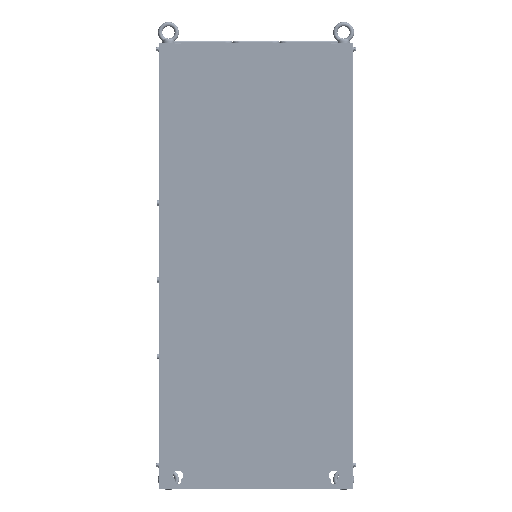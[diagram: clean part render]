
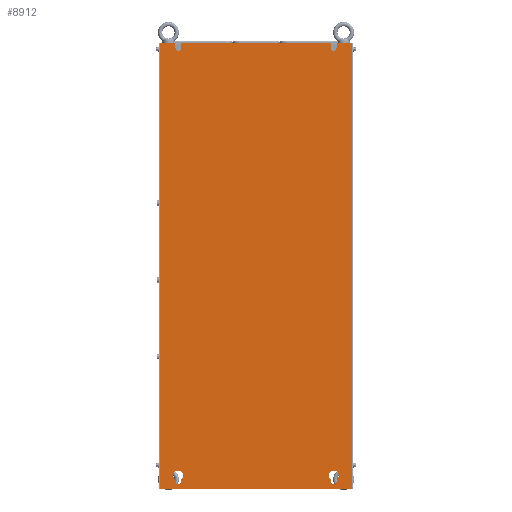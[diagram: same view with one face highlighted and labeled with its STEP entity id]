
A CAD part, front view. The second image highlights one B-rep face of the part: STEP entity #8912.
In plain terms, the highlighted planar face has unit normal (0, -1, 0).
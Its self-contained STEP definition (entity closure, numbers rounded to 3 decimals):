
#975=DIRECTION('',(0.,0.,-1.));
#976=VECTOR('',#975,915.);
#977=CARTESIAN_POINT('',(-198.,-30.,0.));
#978=LINE('',#977,#976);
#997=DIRECTION('',(1.,0.,0.));
#998=VECTOR('',#997,396.);
#999=CARTESIAN_POINT('',(-198.,-30.,-915.));
#1000=LINE('',#999,#998);
#1250=DIRECTION('',(0.,0.,1.));
#1251=VECTOR('',#1250,915.);
#1252=CARTESIAN_POINT('',(198.,-30.,-915.));
#1253=LINE('',#1252,#1251);
#1258=DIRECTION('',(1.,0.,0.));
#1259=VECTOR('',#1258,32.5);
#1260=CARTESIAN_POINT('',(-198.,-30.,0.));
#1261=LINE('',#1260,#1259);
#1262=DIRECTION('',(0.,0.,-1.));
#1263=VECTOR('',#1262,10.);
#1264=CARTESIAN_POINT('',(-165.5,-30.,0.));
#1265=LINE('',#1264,#1263);
#1266=CARTESIAN_POINT('',(-160.,-30.,-10.));
#1267=DIRECTION('',(0.,-1.,0.));
#1268=DIRECTION('',(-1.,0.,0.));
#1269=AXIS2_PLACEMENT_3D('',#1266,#1267,#1268);
#1271=DIRECTION('',(1.,0.,0.));
#1272=VECTOR('',#1271,309.);
#1273=CARTESIAN_POINT('',(-154.5,-30.,0.));
#1274=LINE('',#1273,#1272);
#1275=DIRECTION('',(0.,0.,-1.));
#1276=VECTOR('',#1275,10.);
#1277=CARTESIAN_POINT('',(154.5,-30.,0.));
#1278=LINE('',#1277,#1276);
#1279=CARTESIAN_POINT('',(160.,-30.,-10.));
#1280=DIRECTION('',(0.,-1.,0.));
#1281=DIRECTION('',(-1.,0.,0.));
#1282=AXIS2_PLACEMENT_3D('',#1279,#1280,#1281);
#1284=DIRECTION('',(1.,0.,0.));
#1285=VECTOR('',#1284,32.5);
#1286=CARTESIAN_POINT('',(165.5,-30.,0.));
#1287=LINE('',#1286,#1285);
#1288=CARTESIAN_POINT('',(-160.,-30.,-901.));
#1289=DIRECTION('',(0.,-1.,0.));
#1290=DIRECTION('',(-1.,0.,0.));
#1291=AXIS2_PLACEMENT_3D('',#1288,#1289,#1290);
#1293=DIRECTION('',(0.,0.,1.));
#1294=VECTOR('',#1293,4.648);
#1295=CARTESIAN_POINT('',(-154.5,-30.,-901.));
#1296=LINE('',#1295,#1294);
#1297=CARTESIAN_POINT('',(-160.,-30.,-888.));
#1298=DIRECTION('',(0.,-1.,0.));
#1299=DIRECTION('',(0.55,0.,-0.835));
#1300=AXIS2_PLACEMENT_3D('',#1297,#1298,#1299);
#1302=CARTESIAN_POINT('',(-160.,-30.,-888.));
#1303=DIRECTION('',(0.,-1.,0.));
#1304=DIRECTION('',(0.55,0.,0.835));
#1305=AXIS2_PLACEMENT_3D('',#1302,#1303,#1304);
#1307=DIRECTION('',(0.,0.,-1.));
#1308=VECTOR('',#1307,4.648);
#1309=CARTESIAN_POINT('',(-165.5,-30.,-896.352));
#1310=LINE('',#1309,#1308);
#1311=CARTESIAN_POINT('',(160.,-30.,-901.));
#1312=DIRECTION('',(0.,-1.,0.));
#1313=DIRECTION('',(-1.,0.,0.));
#1314=AXIS2_PLACEMENT_3D('',#1311,#1312,#1313);
#1316=DIRECTION('',(0.,0.,1.));
#1317=VECTOR('',#1316,4.648);
#1318=CARTESIAN_POINT('',(165.5,-30.,-901.));
#1319=LINE('',#1318,#1317);
#1320=CARTESIAN_POINT('',(160.,-30.,-888.));
#1321=DIRECTION('',(0.,-1.,0.));
#1322=DIRECTION('',(0.55,0.,-0.835));
#1323=AXIS2_PLACEMENT_3D('',#1320,#1321,#1322);
#1325=CARTESIAN_POINT('',(160.,-30.,-888.));
#1326=DIRECTION('',(0.,-1.,0.));
#1327=DIRECTION('',(0.55,0.,0.835));
#1328=AXIS2_PLACEMENT_3D('',#1325,#1326,#1327);
#1330=DIRECTION('',(0.,0.,-1.));
#1331=VECTOR('',#1330,4.648);
#1332=CARTESIAN_POINT('',(154.5,-30.,-896.352));
#1333=LINE('',#1332,#1331);
#1358=DIRECTION('',(0.,0.,-1.));
#1359=VECTOR('',#1358,10.);
#1360=CARTESIAN_POINT('',(-154.5,-30.,0.));
#1361=LINE('',#1360,#1359);
#1386=DIRECTION('',(0.,0.,-1.));
#1387=VECTOR('',#1386,10.);
#1388=CARTESIAN_POINT('',(165.5,-30.,0.));
#1389=LINE('',#1388,#1387);
#6214=CARTESIAN_POINT('',(-198.,-30.,-915.));
#6215=VERTEX_POINT('',#6214);
#6216=CARTESIAN_POINT('',(-198.,-30.,0.));
#6217=VERTEX_POINT('',#6216);
#6226=CARTESIAN_POINT('',(198.,-30.,-915.));
#6227=VERTEX_POINT('',#6226);
#6682=CARTESIAN_POINT('',(198.,-30.,0.));
#6683=VERTEX_POINT('',#6682);
#6686=CARTESIAN_POINT('',(-165.5,-30.,0.));
#6687=VERTEX_POINT('',#6686);
#6688=CARTESIAN_POINT('',(-165.5,-30.,-10.));
#6689=VERTEX_POINT('',#6688);
#6690=CARTESIAN_POINT('',(-154.5,-30.,-10.));
#6691=VERTEX_POINT('',#6690);
#6692=CARTESIAN_POINT('',(-154.5,-30.,0.));
#6693=VERTEX_POINT('',#6692);
#6694=CARTESIAN_POINT('',(154.5,-30.,0.));
#6695=VERTEX_POINT('',#6694);
#6696=CARTESIAN_POINT('',(154.5,-30.,-10.));
#6697=VERTEX_POINT('',#6696);
#6698=CARTESIAN_POINT('',(165.5,-30.,-10.));
#6699=VERTEX_POINT('',#6698);
#6700=CARTESIAN_POINT('',(165.5,-30.,0.));
#6701=VERTEX_POINT('',#6700);
#6702=CARTESIAN_POINT('',(-165.5,-30.,-901.));
#6703=CARTESIAN_POINT('',(-154.5,-30.,-901.));
#6704=VERTEX_POINT('',#6702);
#6705=VERTEX_POINT('',#6703);
#6706=CARTESIAN_POINT('',(-154.5,-30.,-896.352));
#6707=VERTEX_POINT('',#6706);
#6708=CARTESIAN_POINT('',(-154.5,-30.,-879.648));
#6709=VERTEX_POINT('',#6708);
#6710=CARTESIAN_POINT('',(-165.5,-30.,-896.352));
#6711=VERTEX_POINT('',#6710);
#6712=CARTESIAN_POINT('',(154.5,-30.,-901.));
#6713=CARTESIAN_POINT('',(165.5,-30.,-901.));
#6714=VERTEX_POINT('',#6712);
#6715=VERTEX_POINT('',#6713);
#6716=CARTESIAN_POINT('',(165.5,-30.,-896.352));
#6717=VERTEX_POINT('',#6716);
#6718=CARTESIAN_POINT('',(165.5,-30.,-879.648));
#6719=VERTEX_POINT('',#6718);
#6720=CARTESIAN_POINT('',(154.5,-30.,-896.352));
#6721=VERTEX_POINT('',#6720);
#8860=CARTESIAN_POINT('',(-200.,-30.,0.));
#8861=DIRECTION('',(0.,-1.,0.));
#8862=DIRECTION('',(0.,0.,-1.));
#8863=AXIS2_PLACEMENT_3D('',#8860,#8861,#8862);
#8864=PLANE('',#8863);
#8865=ORIENTED_EDGE('',*,*,#8844,.F.);
#8866=ORIENTED_EDGE('',*,*,#8186,.F.);
#8867=ORIENTED_EDGE('',*,*,#8141,.F.);
#8869=ORIENTED_EDGE('',*,*,#8868,.T.);
#8871=ORIENTED_EDGE('',*,*,#8870,.T.);
#8873=ORIENTED_EDGE('',*,*,#8872,.T.);
#8875=ORIENTED_EDGE('',*,*,#8874,.F.);
#8877=ORIENTED_EDGE('',*,*,#8876,.T.);
#8879=ORIENTED_EDGE('',*,*,#8878,.T.);
#8881=ORIENTED_EDGE('',*,*,#8880,.T.);
#8883=ORIENTED_EDGE('',*,*,#8882,.F.);
#8885=ORIENTED_EDGE('',*,*,#8884,.T.);
#8886=EDGE_LOOP('',(#8865,#8866,#8867,#8869,#8871,#8873,#8875,#8877,#8879,#8881,
#8883,#8885));
#8887=FACE_OUTER_BOUND('',#8886,.F.);
#8889=ORIENTED_EDGE('',*,*,#8888,.T.);
#8891=ORIENTED_EDGE('',*,*,#8890,.T.);
#8893=ORIENTED_EDGE('',*,*,#8892,.T.);
#8895=ORIENTED_EDGE('',*,*,#8894,.T.);
#8897=ORIENTED_EDGE('',*,*,#8896,.T.);
#8898=EDGE_LOOP('',(#8889,#8891,#8893,#8895,#8897));
#8899=FACE_BOUND('',#8898,.F.);
#8901=ORIENTED_EDGE('',*,*,#8900,.T.);
#8903=ORIENTED_EDGE('',*,*,#8902,.T.);
#8905=ORIENTED_EDGE('',*,*,#8904,.T.);
#8907=ORIENTED_EDGE('',*,*,#8906,.T.);
#8909=ORIENTED_EDGE('',*,*,#8908,.T.);
#8910=EDGE_LOOP('',(#8901,#8903,#8905,#8907,#8909));
#8911=FACE_BOUND('',#8910,.F.);
#8912=ADVANCED_FACE('',(#8887,#8899,#8911),#8864,.T.);
#1270=CIRCLE('',#1269,5.5);
#1283=CIRCLE('',#1282,5.5);
#1292=CIRCLE('',#1291,5.5);
#1301=CIRCLE('',#1300,10.);
#1306=CIRCLE('',#1305,10.);
#1315=CIRCLE('',#1314,5.5);
#1324=CIRCLE('',#1323,10.);
#1329=CIRCLE('',#1328,10.);
#8141=EDGE_CURVE('',#6217,#6215,#978,.T.);
#8186=EDGE_CURVE('',#6215,#6227,#1000,.T.);
#8844=EDGE_CURVE('',#6227,#6683,#1253,.T.);
#8868=EDGE_CURVE('',#6217,#6687,#1261,.T.);
#8870=EDGE_CURVE('',#6687,#6689,#1265,.T.);
#8872=EDGE_CURVE('',#6689,#6691,#1270,.T.);
#8874=EDGE_CURVE('',#6693,#6691,#1361,.T.);
#8876=EDGE_CURVE('',#6693,#6695,#1274,.T.);
#8878=EDGE_CURVE('',#6695,#6697,#1278,.T.);
#8880=EDGE_CURVE('',#6697,#6699,#1283,.T.);
#8882=EDGE_CURVE('',#6701,#6699,#1389,.T.);
#8884=EDGE_CURVE('',#6701,#6683,#1287,.T.);
#8888=EDGE_CURVE('',#6704,#6705,#1292,.T.);
#8890=EDGE_CURVE('',#6705,#6707,#1296,.T.);
#8892=EDGE_CURVE('',#6707,#6709,#1301,.T.);
#8894=EDGE_CURVE('',#6709,#6711,#1306,.T.);
#8896=EDGE_CURVE('',#6711,#6704,#1310,.T.);
#8900=EDGE_CURVE('',#6714,#6715,#1315,.T.);
#8902=EDGE_CURVE('',#6715,#6717,#1319,.T.);
#8904=EDGE_CURVE('',#6717,#6719,#1324,.T.);
#8906=EDGE_CURVE('',#6719,#6721,#1329,.T.);
#8908=EDGE_CURVE('',#6721,#6714,#1333,.T.);
